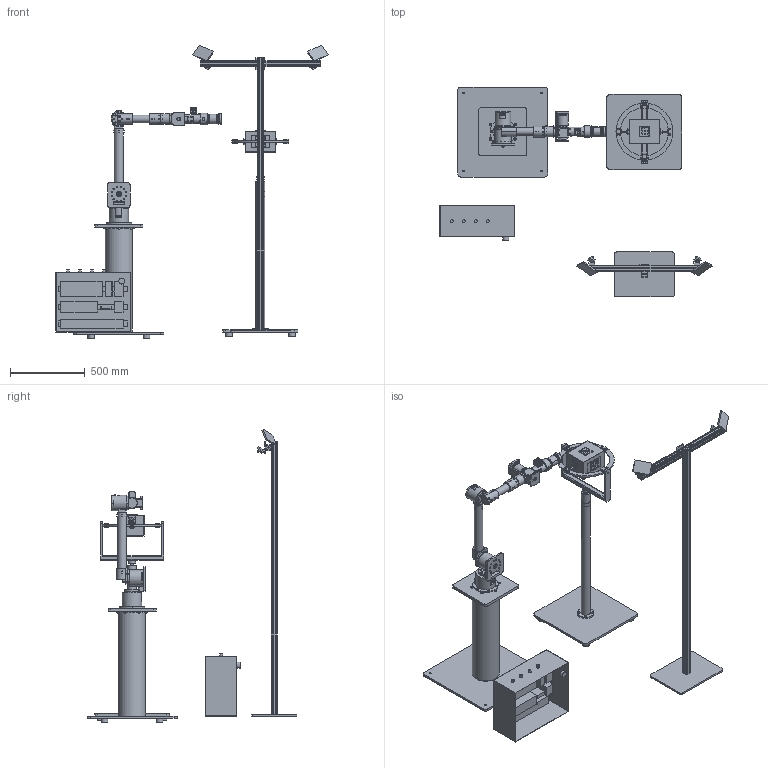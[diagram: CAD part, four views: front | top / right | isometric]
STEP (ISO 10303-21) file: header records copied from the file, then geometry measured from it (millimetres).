
FILE_DESCRIPTION(('Open CASCADE Model'),'2;1');
FILE_NAME('Open CASCADE Shape Model','2026-10-17T21:01:30',('Author'),( 'Open CASCADE'),'Open CASCADE STEP processor 7.9','Open CASCADE 7.9' ,'Unknown');
FILE_SCHEMA(('AUTOMOTIVE_DESIGN { 1 0 10303 214 1 1 1 1 }'));
Length unit declared in the file: millimetre
Products named in the file (203): DETUMBLER_ARM_V2; ARM_BASE; pedestal_foot_plate; pedestal_column; pedestal_top_ring; leveling_foot_0; leveling_foot_1; leveling_foot_2; leveling_foot_3; base_plate; plate_to_pedestal_screws_M10; J1_housing_cup; cup_to_plate_screws_M8; J1_body_screws_M5; J1_actuator_body; J1_actuator_output_flange; J1_actuator_connectors; ARM_L1_TURRET; turret_bracket; J1_flange_screws_M5; J2_body_screws_M5; J2_actuator_body; J2_actuator_output_flange; J2_actuator_connectors; ARM_L2_UPPER; upper_hub_disc; J2_flange_screws_M5; upper_hub_block; upper_block_screws_M6; upper_hub_cross_pins_M4; upper_arm_tube_carbon; elbow_housing; elbow_cross_pins_M4; J3_body_screws_M5; J3_actuator_body; J3_actuator_output_flange; J3_actuator_connectors; ARM_L3_FOREARM; forearm_hub_disc; J3_flange_screws_M5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
Assembly tree (202 placements, depth 3):
  DETUMBLER_ARM_V2
    ARM_BASE
      pedestal_foot_plate
      pedestal_column
      pedestal_top_ring
      leveling_foot_0
      leveling_foot_1
      leveling_foot_2
      leveling_foot_3
      base_plate
      plate_to_pedestal_screws_M10
      J1_housing_cup
      cup_to_plate_screws_M8
      J1_body_screws_M5
      J1_actuator_body
      J1_actuator_output_flange
      J1_actuator_connectors
    ARM_L1_TURRET
      turret_bracket
      J1_flange_screws_M5
      J2_body_screws_M5
      J2_actuator_body
      J2_actuator_output_flange
      J2_actuator_connectors
    ARM_L2_UPPER
      upper_hub_disc
      J2_flange_screws_M5
      upper_hub_block
      upper_block_screws_M6
      upper_hub_cross_pins_M4
      upper_arm_tube_carbon
      elbow_housing
      elbow_cross_pins_M4
      J3_body_screws_M5
      J3_actuator_body
      J3_actuator_output_flange
      J3_actuator_connectors
    ARM_L3_FOREARM
      forearm_hub_disc
      J3_flange_screws_M5
      forearm_boss
      forearm_boss_screws_M6
      forearm_boss_cross_pins_M4
      J4_cradle
      J4_cradle_cross_pins_M4
      J4_body_screws_M4
      forearm_tube_carbon
      J4_actuator_body
      J4_actuator_output_flange
      J4_actuator_connectors
    ARM_L4_FORK
      fork_hub_disc
      J4_flange_screws_M4
      wrist_fork
      fork_to_disc_screws_M5
      J5_body_screws_M4
      idler_bearing_6204_outer
      idler_bearing_6204_inner
      idler_bearing_6204_seal
      idler_snap_ring
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Bounding box: 1815.34 x 1400 x 1956.73 mm (x, y, z)
Volume: 36268480.7 mm3; surface area: 7760596.4 mm2
Topology: 338 solids, 338 shells, 3927 faces, 8133 edges, 5397 vertices
Faces by surface type: plane 2736, cylinder 1191
Full cylindrical faces by diameter (mm): 2.5 x4, 3 x12, 3.3 x62, 3.4 x4, 4 x145, 4.2 x94, 4.5 x56, 5 x73, 5.5 x67, 6 x9, 6.6 x7, 6.8 x6, 7 x51, 7.6 x40, 8 x24, 8.4 x2, 8.5 x72, 9 x7, 9.1 x59, 10 x23, 10.4 x1, 10.6 x4, 11 x21, 12 x13, 13 x10, 13.04 x10, 13.6 x10, 14 x2, 15.76 x4, 16 x8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
Entity records: 236462 total; most frequent: CARTESIAN_POINT 57069, DIRECTION 33407, LINE 18452, VECTOR 18452, ORIENTED_EDGE 16286, PCURVE 16266, DEFINITIONAL_REPRESENTATION 16266, EDGE_CURVE 8133
